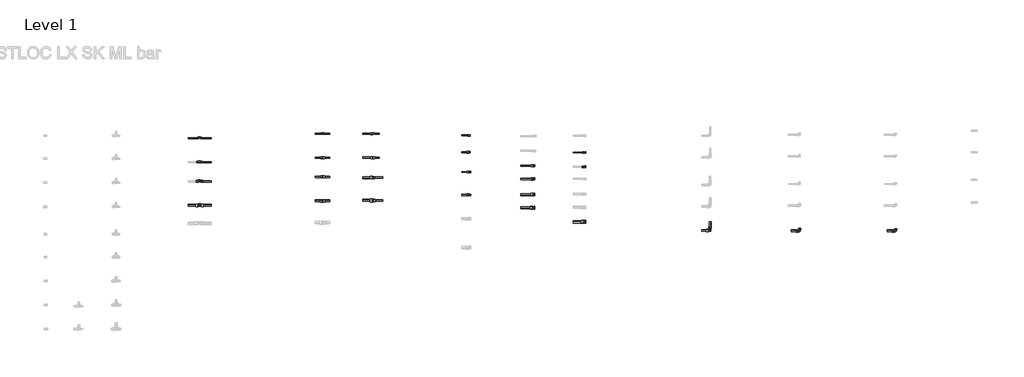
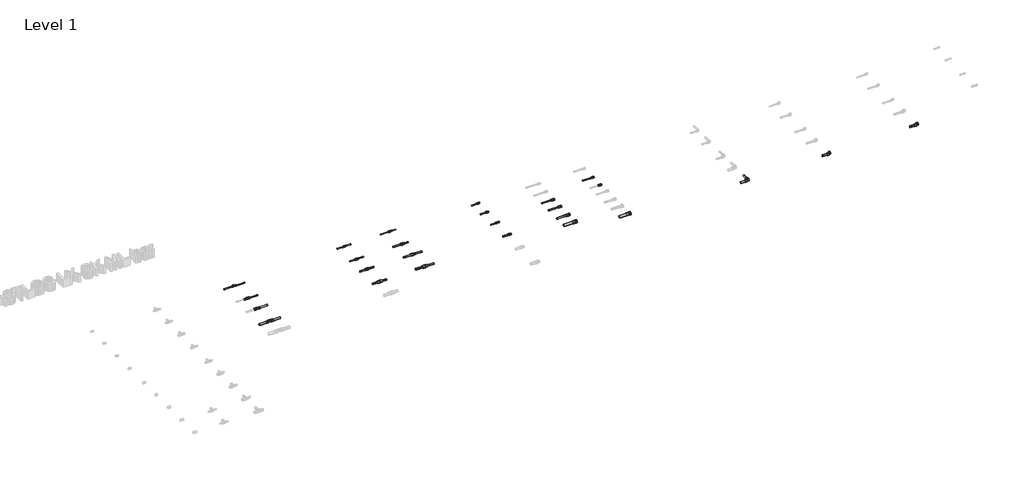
# One storey, part 14 of 78: 36 pipe segments, 26 pipe fittings.
"""IFC4 building model written with IfcOpenShell, lengths in millimetres."""

from ifc_helpers import new_model, si_unit, point, frame, frame_2d, origin, place, context, project, spatial, circle_curve, trimmed, segment, composite_curve, outline, extrude, transform, mapped, element, save
from components import pipe_fitting_e93012df, pipe_fitting_027be69e, pipe_fitting_14a26f43, pipe_fitting_91740978, pipe_fitting_d92d4423, pipe_fitting_47d0521d, pipe_fitting_29c4d4eb, pipe_fitting_1d22680d, pipe_fitting_5e3c5755, pipe_fitting_f5731c1c, pipe_fitting_0b32e4b0, pipe_fitting_0562571e, pipe_fitting_d14a7251, pipe_fitting_38e91122, pipe_fitting_ee510fd7, pipe_fitting_a999c26e, pipe_fitting_a340ff43, pipe_fitting_d52baa13, pipe_fitting_80b7091b, pipe_fitting_edf19c19, pipe_fitting_68aa3d98, pipe_fitting_c3764643, pipe_fitting_f8d70d0e, pipe_fitting_18fcccac, pipe_fitting_1e296f3b, pipe_fitting_52b87474

model = new_model("IFC4")

# Units and contexts
model_context = context("Model", 3, world=origin())
ifc_project = project(units=[si_unit("LENGTHUNIT", "METRE", prefix="MILLI")], contexts=[model_context])

# Site, building, storey
site = spatial("IfcSite", under=ifc_project)
building = spatial("IfcBuilding", under=site)
storey = spatial("IfcBuildingStorey", under=building, Name="Level 1", Elevation=0.0)

# Pipe fittings
placement = place(None, origin())
pipe_fitting_shape = pipe_fitting_e93012df(model_context)
element("IfcPipeFitting", 1, ObjectType="FASTLOC_Adapter_LX, with external thread : FSL A C external SK", at=placement, inside=storey, context=model_context, shape_type="MappedRepresentation", body=[
    mapped(pipe_fitting_shape, transform((7526.3785179, -18735.7057457, 0.0), x_axis=(1.0, 0.0, 0.0), y_axis=(0.0, 1.0, 0.0), z_axis=(0.0, 0.0, 1.0))),
])
pipe_fitting_2_shape = pipe_fitting_027be69e(model_context)
element("IfcPipeFitting", 2, ObjectType="FASTLOC_Coupling equal LX : FSL C LX SK", at=placement, inside=storey, context=model_context, shape_type="MappedRepresentation", body=[
    mapped(pipe_fitting_2_shape, transform((5088.3790161, -18705.8821283, 0.0), x_axis=(1.0, 0.0, 0.0), y_axis=(0.0, 1.0, 0.0), z_axis=(0.0, 0.0, 1.0))),
])
pipe_fitting_3_shape = pipe_fitting_14a26f43(model_context)
element("IfcPipeFitting", 3, ObjectType="FASTLOC_Coupling reduced LX : FSL C LX SK", at=placement, inside=storey, context=model_context, shape_type="MappedRepresentation", body=[
    mapped(pipe_fitting_3_shape, transform((5926.6928556, -19818.3821283, 0.0), x_axis=(1.0, 0.0, 0.0), y_axis=(0.0, 1.0, 0.0), z_axis=(0.0, 0.0, 1.0))),
])
pipe_fitting_4_shape = pipe_fitting_91740978(model_context)
element("IfcPipeFitting", 4, ObjectType="FASTLOC_T-piece internal thread LX : FSL T thread LX SK", at=placement, inside=storey, context=model_context, shape_type="MappedRepresentation", body=[
    mapped(pipe_fitting_4_shape, transform((3036.609585, -19899.8272875, 0.0), x_axis=(1.0, 0.0, 0.0), y_axis=(0.0, 1.0, 0.0), z_axis=(0.0, 0.0, 1.0))),
])
pipe_fitting_5_shape = pipe_fitting_d92d4423(model_context)
element("IfcPipeFitting", 5, ObjectType="FASTLOC_T-piece internal thread LX : FSL T thread LX SK", at=placement, inside=storey, context=model_context, shape_type="MappedRepresentation", body=[
    mapped(pipe_fitting_5_shape, transform((3036.609585, -18779.8272875, 0.0), x_axis=(1.0, 0.0, 0.0), y_axis=(0.0, 1.0, 0.0), z_axis=(0.0, 0.0, 1.0))),
])
pipe_fitting_6_shape = pipe_fitting_47d0521d(model_context)
element("IfcPipeFitting", 6, ObjectType="FASTLOC_T-piece internal thread LX : FSL T thread LX SK", at=placement, inside=storey, context=model_context, shape_type="MappedRepresentation", body=[
    mapped(pipe_fitting_6_shape, transform((3036.609585, -19179.8272875, 0.0), x_axis=(1.0, 0.0, 0.0), y_axis=(0.0, 1.0, 0.0), z_axis=(0.0, 0.0, 1.0))),
])
pipe_fitting_7_shape = pipe_fitting_29c4d4eb(model_context)
element("IfcPipeFitting", 7, ObjectType="FASTLOC_T-piece internal thread LX : FSL T thread LX SK", at=placement, inside=storey, context=model_context, shape_type="MappedRepresentation", body=[
    mapped(pipe_fitting_7_shape, transform((3036.609585, -19499.8272875, 0.0), x_axis=(1.0, 0.0, 0.0), y_axis=(0.0, 1.0, 0.0), z_axis=(0.0, 0.0, 1.0))),
])
pipe_fitting_8_shape = pipe_fitting_1d22680d(model_context)
element("IfcPipeFitting", 8, ObjectType="FASTLOC_Coupling equal LX : FSL C LX SK", at=placement, inside=storey, context=model_context, shape_type="MappedRepresentation", body=[
    mapped(pipe_fitting_8_shape, transform((5088.3790161, -19105.8821283, 0.0), x_axis=(1.0, 0.0, 0.0), y_axis=(0.0, 1.0, 0.0), z_axis=(0.0, 0.0, 1.0))),
])
pipe_fitting_9_shape = pipe_fitting_5e3c5755(model_context)
element("IfcPipeFitting", 9, ObjectType="FASTLOC_Coupling equal LX : FSL C LX SK", at=placement, inside=storey, context=model_context, shape_type="MappedRepresentation", body=[
    mapped(pipe_fitting_9_shape, transform((5088.3790161, -19425.8821283, 0.0), x_axis=(1.0, 0.0, 0.0), y_axis=(0.0, 1.0, 0.0), z_axis=(0.0, 0.0, 1.0))),
])
pipe_fitting_10_shape = pipe_fitting_f5731c1c(model_context)
element("IfcPipeFitting", 10, ObjectType="FASTLOC_Coupling equal LX : FSL C LX SK", at=placement, inside=storey, context=model_context, shape_type="MappedRepresentation", body=[
    mapped(pipe_fitting_10_shape, transform((5088.3790161, -19825.8821283, 0.0), x_axis=(1.0, 0.0, 0.0), y_axis=(0.0, 1.0, 0.0), z_axis=(0.0, 0.0, 1.0))),
])
pipe_fitting_11_shape = pipe_fitting_0b32e4b0(model_context)
element("IfcPipeFitting", 11, ObjectType="FASTLOC_Coupling reduced LX : FSL C LX SK", at=placement, inside=storey, context=model_context, shape_type="MappedRepresentation", body=[
    mapped(pipe_fitting_11_shape, transform((5926.6928556, -18705.8821283, 0.0), x_axis=(1.0, 0.0, 0.0), y_axis=(0.0, 1.0, 0.0), z_axis=(0.0, 0.0, 1.0))),
])
pipe_fitting_12_shape = pipe_fitting_0562571e(model_context)
element("IfcPipeFitting", 12, ObjectType="FASTLOC_Coupling reduced LX : FSL C LX SK", at=placement, inside=storey, context=model_context, shape_type="MappedRepresentation", body=[
    mapped(pipe_fitting_12_shape, transform((5926.6928556, -19105.8821283, 0.0), x_axis=(1.0, 0.0, 0.0), y_axis=(0.0, 1.0, 0.0), z_axis=(0.0, 0.0, 1.0))),
])
pipe_fitting_13_shape = pipe_fitting_d14a7251(model_context)
element("IfcPipeFitting", 13, ObjectType="FASTLOC_Coupling reduced LX : FSL C LX SK", at=placement, inside=storey, context=model_context, shape_type="MappedRepresentation", body=[
    mapped(pipe_fitting_13_shape, transform((5926.6928556, -19438.3821283, 0.0), x_axis=(1.0, 0.0, 0.0), y_axis=(0.0, 1.0, 0.0), z_axis=(0.0, 0.0, 1.0))),
])
pipe_fitting_14_shape = pipe_fitting_38e91122(model_context)
element("IfcPipeFitting", 14, ObjectType="FASTLOC_Adapter_LX, with external thread : FSL A C external SK", at=placement, inside=storey, context=model_context, shape_type="MappedRepresentation", body=[
    mapped(pipe_fitting_14_shape, transform((7526.8953131, -19014.2068389, 0.0), x_axis=(1.0, 0.0, 0.0), y_axis=(0.0, 1.0, 0.0), z_axis=(0.0, 0.0, 1.0))),
])
pipe_fitting_15_shape = pipe_fitting_ee510fd7(model_context)
element("IfcPipeFitting", 15, ObjectType="FASTLOC_Adapter_LX, with external thread : FSL A C external SK", at=placement, inside=storey, context=model_context, shape_type="MappedRepresentation", body=[
    mapped(pipe_fitting_15_shape, transform((7526.8953131, -19344.2068389, 0.0), x_axis=(1.0, 0.0, 0.0), y_axis=(0.0, 1.0, 0.0), z_axis=(0.0, 0.0, 1.0))),
])
pipe_fitting_16_shape = pipe_fitting_a999c26e(model_context)
element("IfcPipeFitting", 16, ObjectType="FASTLOC_Adapter_LX, with external thread : FSL A C external SK", at=placement, inside=storey, context=model_context, shape_type="MappedRepresentation", body=[
    mapped(pipe_fitting_16_shape, transform((7526.8953131, -19724.2068389, 0.0), x_axis=(1.0, 0.0, 0.0), y_axis=(0.0, 1.0, 0.0), z_axis=(0.0, 0.0, 1.0))),
])
pipe_fitting_17_shape = pipe_fitting_a340ff43(model_context)
element("IfcPipeFitting", 17, ObjectType="FASTLOC_Adapter with union nut LX : FSL A union nut SK", at=placement, inside=storey, context=model_context, shape_type="MappedRepresentation", body=[
    mapped(pipe_fitting_17_shape, transform((9445.0071797, -19019.8414073, 0.0), x_axis=(1.0, 0.0, 0.0), y_axis=(0.0, 1.0, 0.0), z_axis=(0.0, 0.0, 1.0))),
])
pipe_fitting_18_shape = pipe_fitting_d52baa13(model_context)
element("IfcPipeFitting", 18, ObjectType="FASTLOC_Adapter with union nut LX : FSL A union nut SK", at=placement, inside=storey, context=model_context, shape_type="MappedRepresentation", body=[
    mapped(pipe_fitting_18_shape, transform((9445.0071797, -19259.8414073, 0.0), x_axis=(1.0, 0.0, 0.0), y_axis=(0.0, 1.0, 0.0), z_axis=(0.0, 0.0, 1.0))),
])
pipe_fitting_19_shape = pipe_fitting_80b7091b(model_context)
element("IfcPipeFitting", 19, ObjectType="FASTLOC_Adapter with union nut LX : FSL A union nut SK", at=placement, inside=storey, context=model_context, shape_type="MappedRepresentation", body=[
    mapped(pipe_fitting_19_shape, transform((9445.0071797, -20174.8414073, 0.0), x_axis=(1.0, 0.0, 0.0), y_axis=(0.0, 1.0, 0.0), z_axis=(0.0, 0.0, 1.0))),
])
pipe_fitting_20_shape = pipe_fitting_edf19c19(model_context)
element("IfcPipeFitting", 20, ObjectType="FASTLOC_Corner LX : FSL C LX SK", at=placement, inside=storey, context=model_context, shape_type="MappedRepresentation", body=[
    mapped(pipe_fitting_20_shape, transform((11545.4707441, -20318.8136389, 0.0), x_axis=(1.0, 0.0, 0.0), y_axis=(0.0, 1.0, 0.0), z_axis=(0.0, 0.0, 1.0))),
])
pipe_fitting_21_shape = pipe_fitting_68aa3d98(model_context)
element("IfcPipeFitting", 21, ObjectType="FASTLOC_Elbow with male thread LX : FSL A internal SK", at=placement, inside=storey, context=model_context, shape_type="MappedRepresentation", body=[
    mapped(pipe_fitting_21_shape, transform((13036.9744513, -20324.4914884, 0.0), x_axis=(1.0, 0.0, 0.0), y_axis=(0.0, 1.0, 0.0), z_axis=(0.0, 0.0, 1.0))),
])
pipe_fitting_22_shape = pipe_fitting_c3764643(model_context)
element("IfcPipeFitting", 22, ObjectType="FASTLOC_Elbow with female thread LX : FSL A internal SK", at=placement, inside=storey, context=model_context, shape_type="MappedRepresentation", body=[
    mapped(pipe_fitting_22_shape, transform((14636.9744513, -20324.4914884, 0.0), x_axis=(1.0, 0.0, 0.0), y_axis=(0.0, 1.0, 0.0), z_axis=(0.0, 0.0, 1.0))),
])
pipe_fitting_23_shape = pipe_fitting_f8d70d0e(model_context)
element("IfcPipeFitting", 23, ObjectType="FASTLOC_Adapter_LX, with internal thread : FSL A internal SK", at=placement, inside=storey, context=model_context, shape_type="MappedRepresentation", body=[
    mapped(pipe_fitting_23_shape, transform((8602.7717432, -19240.2569989, 0.0), x_axis=(1.0, 0.0, 0.0), y_axis=(0.0, 1.0, 0.0), z_axis=(0.0, 0.0, 1.0))),
])
pipe_fitting_24_shape = pipe_fitting_18fcccac(model_context)
element("IfcPipeFitting", 24, ObjectType="FASTLOC_Adapter_LX, with internal thread : FSL A internal SK", at=placement, inside=storey, context=model_context, shape_type="MappedRepresentation", body=[
    mapped(pipe_fitting_24_shape, transform((8602.7717432, -19460.2569989, 0.0), x_axis=(1.0, 0.0, 0.0), y_axis=(0.0, 1.0, 0.0), z_axis=(0.0, 0.0, 1.0))),
])
pipe_fitting_25_shape = pipe_fitting_1e296f3b(model_context)
element("IfcPipeFitting", 25, ObjectType="FASTLOC_Adapter_LX, with internal thread : FSL A internal SK", at=placement, inside=storey, context=model_context, shape_type="MappedRepresentation", body=[
    mapped(pipe_fitting_25_shape, transform((8602.7717432, -19720.2569989, 0.0), x_axis=(1.0, 0.0, 0.0), y_axis=(0.0, 1.0, 0.0), z_axis=(0.0, 0.0, 1.0))),
])
pipe_fitting_26_shape = pipe_fitting_52b87474(model_context)
element("IfcPipeFitting", 26, ObjectType="FASTLOC_Adapter_LX, with internal thread : FSL A internal SK", at=placement, inside=storey, context=model_context, shape_type="MappedRepresentation", body=[
    mapped(pipe_fitting_26_shape, transform((8602.7717432, -19940.2569989, 0.0), x_axis=(1.0, 0.0, 0.0), y_axis=(0.0, 1.0, 0.0), z_axis=(0.0, 0.0, 1.0))),
])

# Pipe segments
element("IfcPipeSegment", 27, ObjectType="FASTLOC LX ML SK bar", at=placement, inside=storey, context=model_context, shape_type="SweptSolid", body=[
    extrude(outline(composite_curve([segment(trimmed(circle_curve(frame_2d((-18779.8272875, 0.0)), 8.0), [point((-18787.8272875, 0.0))], [point((-18779.8272875, 8.0))], False, "CARTESIAN"), True, "CONTINUOUS"), segment(trimmed(circle_curve(frame_2d((-18779.8272875, 0.0)), 8.0), [point((-18779.8272875, 8.0))], [point((-18771.8272875, 0.0))], False, "CARTESIAN"), True, "CONTINUOUS"), segment(trimmed(circle_curve(frame_2d((-18779.8272875, 0.0)), 8.0), [point((-18771.8272875, 0.0))], [point((-18779.8272875, -8.0))], False, "CARTESIAN"), True, "CONTINUOUS"), segment(trimmed(circle_curve(frame_2d((-18779.8272875, 0.0)), 8.0), [point((-18779.8272875, -8.0))], [point((-18787.8272875, 0.0))], False, "CARTESIAN"), True, "CONTINUOUS")], self_intersect=False)), frame((3058.609585, 0.0, 0.0), z_axis=(1.0, 0.0, 0.0), x_axis=(0.0, 1.0, 0.0)), (0.0, 0.0, 1.0), 170.0),
])
element("IfcPipeSegment", 28, ObjectType="FASTLOC LX ML SK bar", at=placement, inside=storey, context=model_context, shape_type="SweptSolid", body=[
    extrude(outline(composite_curve([segment(trimmed(circle_curve(frame_2d((-18779.8272875, 0.0)), 8.0), [point((-18771.8272875, 0.0))], [point((-18779.8272875, -8.0))], False, "CARTESIAN"), True, "CONTINUOUS"), segment(trimmed(circle_curve(frame_2d((-18779.8272875, 0.0)), 8.0), [point((-18779.8272875, -8.0))], [point((-18787.8272875, 0.0))], False, "CARTESIAN"), True, "CONTINUOUS"), segment(trimmed(circle_curve(frame_2d((-18779.8272875, 0.0)), 8.0), [point((-18787.8272875, 0.0))], [point((-18779.8272875, 8.0))], False, "CARTESIAN"), True, "CONTINUOUS"), segment(trimmed(circle_curve(frame_2d((-18779.8272875, 0.0)), 8.0), [point((-18779.8272875, 8.0))], [point((-18771.8272875, 0.0))], False, "CARTESIAN"), True, "CONTINUOUS")], self_intersect=False)), frame((2849.609585, 0.0, 0.0), z_axis=(1.0, 0.0, 0.0), x_axis=(0.0, 1.0, 0.0)), (0.0, 0.0, 1.0), 165.0),
])
element("IfcPipeSegment", 29, ObjectType="FASTLOC LX ML SK bar", at=placement, inside=storey, context=model_context, shape_type="SweptSolid", body=[
    extrude(outline(composite_curve([segment(trimmed(circle_curve(frame_2d((-19179.8272875, 0.0)), 8.0), [point((-19187.8272875, 0.0))], [point((-19179.8272875, 8.0))], False, "CARTESIAN"), True, "CONTINUOUS"), segment(trimmed(circle_curve(frame_2d((-19179.8272875, 0.0)), 8.0), [point((-19179.8272875, 8.0))], [point((-19171.8272875, 0.0))], False, "CARTESIAN"), True, "CONTINUOUS"), segment(trimmed(circle_curve(frame_2d((-19179.8272875, 0.0)), 8.0), [point((-19171.8272875, 0.0))], [point((-19179.8272875, -8.0))], False, "CARTESIAN"), True, "CONTINUOUS"), segment(trimmed(circle_curve(frame_2d((-19179.8272875, 0.0)), 8.0), [point((-19179.8272875, -8.0))], [point((-19187.8272875, 0.0))], False, "CARTESIAN"), True, "CONTINUOUS")], self_intersect=False)), frame((3059.109585, 0.0, 0.0), z_axis=(1.0, 0.0, 0.0), x_axis=(0.0, 1.0, 0.0)), (0.0, 0.0, 1.0), 169.5),
])
element("IfcPipeSegment", 30, ObjectType="FASTLOC LX ML SK bar", at=placement, inside=storey, context=model_context, shape_type="SweptSolid", body=[
    extrude(outline(composite_curve([segment(trimmed(circle_curve(frame_2d((-19499.8272875, 0.0)), 12.5), [point((-19512.3272875, 0.0))], [point((-19499.8272875, 12.5))], False, "CARTESIAN"), True, "CONTINUOUS"), segment(trimmed(circle_curve(frame_2d((-19499.8272875, 0.0)), 12.5), [point((-19499.8272875, 12.5))], [point((-19487.3272875, 0.0))], False, "CARTESIAN"), True, "CONTINUOUS"), segment(trimmed(circle_curve(frame_2d((-19499.8272875, 0.0)), 12.5), [point((-19487.3272875, 0.0))], [point((-19499.8272875, -12.5))], False, "CARTESIAN"), True, "CONTINUOUS"), segment(trimmed(circle_curve(frame_2d((-19499.8272875, 0.0)), 12.5), [point((-19499.8272875, -12.5))], [point((-19512.3272875, 0.0))], False, "CARTESIAN"), True, "CONTINUOUS")], self_intersect=False)), frame((3063.309585, 0.0, 0.0), z_axis=(1.0, 0.0, 0.0), x_axis=(0.0, 1.0, 0.0)), (0.0, 0.0, 1.0), 165.3),
])
element("IfcPipeSegment", 31, ObjectType="FASTLOC LX ML SK bar", at=placement, inside=storey, context=model_context, shape_type="SweptSolid", body=[
    extrude(outline(composite_curve([segment(trimmed(circle_curve(frame_2d((-19899.8272875, 0.0)), 16.0), [point((-19915.8272875, 0.0))], [point((-19899.8272875, 16.0))], False, "CARTESIAN"), True, "CONTINUOUS"), segment(trimmed(circle_curve(frame_2d((-19899.8272875, 0.0)), 16.0), [point((-19899.8272875, 16.0))], [point((-19883.8272875, 0.0))], False, "CARTESIAN"), True, "CONTINUOUS"), segment(trimmed(circle_curve(frame_2d((-19899.8272875, 0.0)), 16.0), [point((-19883.8272875, 0.0))], [point((-19899.8272875, -16.0))], False, "CARTESIAN"), True, "CONTINUOUS"), segment(trimmed(circle_curve(frame_2d((-19899.8272875, 0.0)), 16.0), [point((-19899.8272875, -16.0))], [point((-19915.8272875, 0.0))], False, "CARTESIAN"), True, "CONTINUOUS")], self_intersect=False)), frame((3069.609585, 0.0, 0.0), z_axis=(1.0, 0.0, 0.0), x_axis=(0.0, 1.0, 0.0)), (0.0, 0.0, 1.0), 159.0),
])
element("IfcPipeSegment", 32, ObjectType="FASTLOC LX ML SK bar", at=placement, inside=storey, context=model_context, shape_type="SweptSolid", body=[
    extrude(outline(composite_curve([segment(trimmed(circle_curve(frame_2d((-19899.8272875, 0.0)), 16.0), [point((-19883.8272875, 0.0))], [point((-19899.8272875, -16.0))], False, "CARTESIAN"), True, "CONTINUOUS"), segment(trimmed(circle_curve(frame_2d((-19899.8272875, 0.0)), 16.0), [point((-19899.8272875, -16.0))], [point((-19915.8272875, 0.0))], False, "CARTESIAN"), True, "CONTINUOUS"), segment(trimmed(circle_curve(frame_2d((-19899.8272875, 0.0)), 16.0), [point((-19915.8272875, 0.0))], [point((-19899.8272875, 16.0))], False, "CARTESIAN"), True, "CONTINUOUS"), segment(trimmed(circle_curve(frame_2d((-19899.8272875, 0.0)), 16.0), [point((-19899.8272875, 16.0))], [point((-19883.8272875, 0.0))], False, "CARTESIAN"), True, "CONTINUOUS")], self_intersect=False)), frame((2849.609585, 0.0, 0.0), z_axis=(1.0, 0.0, 0.0), x_axis=(0.0, 1.0, 0.0)), (0.0, 0.0, 1.0), 154.0),
])
element("IfcPipeSegment", 33, ObjectType="FASTLOC LX ML SK bar", at=placement, inside=storey, context=model_context, shape_type="SweptSolid", body=[
    extrude(outline(composite_curve([segment(trimmed(circle_curve(frame_2d((-18705.8821283, 0.0)), 8.0), [point((-18713.8821283, 0.0))], [point((-18705.8821283, 8.0))], False, "CARTESIAN"), True, "CONTINUOUS"), segment(trimmed(circle_curve(frame_2d((-18705.8821283, 0.0)), 8.0), [point((-18705.8821283, 8.0))], [point((-18697.8821283, 0.0))], False, "CARTESIAN"), True, "CONTINUOUS"), segment(trimmed(circle_curve(frame_2d((-18705.8821283, 0.0)), 8.0), [point((-18697.8821283, 0.0))], [point((-18705.8821283, -8.0))], False, "CARTESIAN"), True, "CONTINUOUS"), segment(trimmed(circle_curve(frame_2d((-18705.8821283, 0.0)), 8.0), [point((-18705.8821283, -8.0))], [point((-18713.8821283, 0.0))], False, "CARTESIAN"), True, "CONTINUOUS")], self_intersect=False)), frame((5095.5790161, 0.0, 0.0), z_axis=(1.0, 0.0, 0.0), x_axis=(0.0, 1.0, 0.0)), (0.0, 0.0, 1.0), 115.0),
])
element("IfcPipeSegment", 34, ObjectType="FASTLOC LX ML SK bar", at=placement, inside=storey, context=model_context, shape_type="SweptSolid", body=[
    extrude(outline(composite_curve([segment(trimmed(circle_curve(frame_2d((-18705.8821283, 0.0)), 8.0), [point((-18697.8821283, 0.0))], [point((-18705.8821283, -8.0))], False, "CARTESIAN"), True, "CONTINUOUS"), segment(trimmed(circle_curve(frame_2d((-18705.8821283, 0.0)), 8.0), [point((-18705.8821283, -8.0))], [point((-18713.8821283, 0.0))], False, "CARTESIAN"), True, "CONTINUOUS"), segment(trimmed(circle_curve(frame_2d((-18705.8821283, 0.0)), 8.0), [point((-18713.8821283, 0.0))], [point((-18705.8821283, 8.0))], False, "CARTESIAN"), True, "CONTINUOUS"), segment(trimmed(circle_curve(frame_2d((-18705.8821283, 0.0)), 8.0), [point((-18705.8821283, 8.0))], [point((-18697.8821283, 0.0))], False, "CARTESIAN"), True, "CONTINUOUS")], self_intersect=False)), frame((4961.1790161, 0.0, 0.0), z_axis=(1.0, 0.0, 0.0), x_axis=(0.0, 1.0, 0.0)), (0.0, 0.0, 1.0), 120.0),
])
element("IfcPipeSegment", 35, ObjectType="FASTLOC LX ML SK bar", at=placement, inside=storey, context=model_context, shape_type="SweptSolid", body=[
    extrude(outline(composite_curve([segment(trimmed(circle_curve(frame_2d((-19105.8821283, 0.0)), 8.0), [point((-19113.8821283, 0.0))], [point((-19105.8821283, 8.0))], False, "CARTESIAN"), True, "CONTINUOUS"), segment(trimmed(circle_curve(frame_2d((-19105.8821283, 0.0)), 8.0), [point((-19105.8821283, 8.0))], [point((-19097.8821283, 0.0))], False, "CARTESIAN"), True, "CONTINUOUS"), segment(trimmed(circle_curve(frame_2d((-19105.8821283, 0.0)), 8.0), [point((-19097.8821283, 0.0))], [point((-19105.8821283, -8.0))], False, "CARTESIAN"), True, "CONTINUOUS"), segment(trimmed(circle_curve(frame_2d((-19105.8821283, 0.0)), 8.0), [point((-19105.8821283, -8.0))], [point((-19113.8821283, 0.0))], False, "CARTESIAN"), True, "CONTINUOUS")], self_intersect=False)), frame((5095.7790161, 0.0, 0.0), z_axis=(1.0, 0.0, 0.0), x_axis=(0.0, 1.0, 0.0)), (0.0, 0.0, 1.0), 114.8),
])
element("IfcPipeSegment", 36, ObjectType="FASTLOC LX ML SK bar", at=placement, inside=storey, context=model_context, shape_type="SweptSolid", body=[
    extrude(outline(composite_curve([segment(trimmed(circle_curve(frame_2d((-19105.8821283, 0.0)), 8.0), [point((-19097.8821283, 0.0))], [point((-19105.8821283, -8.0))], False, "CARTESIAN"), True, "CONTINUOUS"), segment(trimmed(circle_curve(frame_2d((-19105.8821283, 0.0)), 8.0), [point((-19105.8821283, -8.0))], [point((-19113.8821283, 0.0))], False, "CARTESIAN"), True, "CONTINUOUS"), segment(trimmed(circle_curve(frame_2d((-19105.8821283, 0.0)), 8.0), [point((-19113.8821283, 0.0))], [point((-19105.8821283, 8.0))], False, "CARTESIAN"), True, "CONTINUOUS"), segment(trimmed(circle_curve(frame_2d((-19105.8821283, 0.0)), 8.0), [point((-19105.8821283, 8.0))], [point((-19097.8821283, 0.0))], False, "CARTESIAN"), True, "CONTINUOUS")], self_intersect=False)), frame((4961.1790161, 0.0, 0.0), z_axis=(1.0, 0.0, 0.0), x_axis=(0.0, 1.0, 0.0)), (0.0, 0.0, 1.0), 119.8),
])
element("IfcPipeSegment", 37, ObjectType="FASTLOC LX ML SK bar", at=placement, inside=storey, context=model_context, shape_type="SweptSolid", body=[
    extrude(outline(composite_curve([segment(trimmed(circle_curve(frame_2d((-19425.8821283, 0.0)), 12.5), [point((-19438.3821283, 0.0))], [point((-19425.8821283, 12.5))], False, "CARTESIAN"), True, "CONTINUOUS"), segment(trimmed(circle_curve(frame_2d((-19425.8821283, 0.0)), 12.5), [point((-19425.8821283, 12.5))], [point((-19413.3821283, 0.0))], False, "CARTESIAN"), True, "CONTINUOUS"), segment(trimmed(circle_curve(frame_2d((-19425.8821283, 0.0)), 12.5), [point((-19413.3821283, 0.0))], [point((-19425.8821283, -12.5))], False, "CARTESIAN"), True, "CONTINUOUS"), segment(trimmed(circle_curve(frame_2d((-19425.8821283, 0.0)), 12.5), [point((-19425.8821283, -12.5))], [point((-19438.3821283, 0.0))], False, "CARTESIAN"), True, "CONTINUOUS")], self_intersect=False)), frame((5096.3790161, 0.0, 0.0), z_axis=(1.0, 0.0, 0.0), x_axis=(0.0, 1.0, 0.0)), (0.0, 0.0, 1.0), 114.2),
])
element("IfcPipeSegment", 38, ObjectType="FASTLOC LX ML SK bar", at=placement, inside=storey, context=model_context, shape_type="SweptSolid", body=[
    extrude(outline(composite_curve([segment(trimmed(circle_curve(frame_2d((-19425.8821283, 0.0)), 12.5), [point((-19413.3821283, 0.0))], [point((-19425.8821283, -12.5))], False, "CARTESIAN"), True, "CONTINUOUS"), segment(trimmed(circle_curve(frame_2d((-19425.8821283, 0.0)), 12.5), [point((-19425.8821283, -12.5))], [point((-19438.3821283, 0.0))], False, "CARTESIAN"), True, "CONTINUOUS"), segment(trimmed(circle_curve(frame_2d((-19425.8821283, 0.0)), 12.5), [point((-19438.3821283, 0.0))], [point((-19425.8821283, 12.5))], False, "CARTESIAN"), True, "CONTINUOUS"), segment(trimmed(circle_curve(frame_2d((-19425.8821283, 0.0)), 12.5), [point((-19425.8821283, 12.5))], [point((-19413.3821283, 0.0))], False, "CARTESIAN"), True, "CONTINUOUS")], self_intersect=False)), frame((4961.1790161, 0.0, 0.0), z_axis=(1.0, 0.0, 0.0), x_axis=(0.0, 1.0, 0.0)), (0.0, 0.0, 1.0), 119.2),
])
element("IfcPipeSegment", 39, ObjectType="FASTLOC LX ML SK bar", at=placement, inside=storey, context=model_context, shape_type="SweptSolid", body=[
    extrude(outline(composite_curve([segment(trimmed(circle_curve(frame_2d((-19825.8821283, 0.0)), 16.0), [point((-19841.8821283, 0.0))], [point((-19825.8821283, 16.0))], False, "CARTESIAN"), True, "CONTINUOUS"), segment(trimmed(circle_curve(frame_2d((-19825.8821283, 0.0)), 16.0), [point((-19825.8821283, 16.0))], [point((-19809.8821283, 0.0))], False, "CARTESIAN"), True, "CONTINUOUS"), segment(trimmed(circle_curve(frame_2d((-19825.8821283, 0.0)), 16.0), [point((-19809.8821283, 0.0))], [point((-19825.8821283, -16.0))], False, "CARTESIAN"), True, "CONTINUOUS"), segment(trimmed(circle_curve(frame_2d((-19825.8821283, 0.0)), 16.0), [point((-19825.8821283, -16.0))], [point((-19841.8821283, 0.0))], False, "CARTESIAN"), True, "CONTINUOUS")], self_intersect=False)), frame((5098.3790161, 0.0, 0.0), z_axis=(1.0, 0.0, 0.0), x_axis=(0.0, 1.0, 0.0)), (0.0, 0.0, 1.0), 112.2),
])
element("IfcPipeSegment", 40, ObjectType="FASTLOC LX ML SK bar", at=placement, inside=storey, context=model_context, shape_type="SweptSolid", body=[
    extrude(outline(composite_curve([segment(trimmed(circle_curve(frame_2d((-19825.8821283, 0.0)), 16.0), [point((-19809.8821283, 0.0))], [point((-19825.8821283, -16.0))], False, "CARTESIAN"), True, "CONTINUOUS"), segment(trimmed(circle_curve(frame_2d((-19825.8821283, 0.0)), 16.0), [point((-19825.8821283, -16.0))], [point((-19841.8821283, 0.0))], False, "CARTESIAN"), True, "CONTINUOUS"), segment(trimmed(circle_curve(frame_2d((-19825.8821283, 0.0)), 16.0), [point((-19841.8821283, 0.0))], [point((-19825.8821283, 16.0))], False, "CARTESIAN"), True, "CONTINUOUS"), segment(trimmed(circle_curve(frame_2d((-19825.8821283, 0.0)), 16.0), [point((-19825.8821283, 16.0))], [point((-19809.8821283, 0.0))], False, "CARTESIAN"), True, "CONTINUOUS")], self_intersect=False)), frame((4961.1790161, 0.0, 0.0), z_axis=(1.0, 0.0, 0.0), x_axis=(0.0, 1.0, 0.0)), (0.0, 0.0, 1.0), 117.2),
])
element("IfcPipeSegment", 41, ObjectType="FASTLOC LX ML SK bar", at=placement, inside=storey, context=model_context, shape_type="SweptSolid", body=[
    extrude(outline(composite_curve([segment(trimmed(circle_curve(frame_2d((-18705.8821283, 0.0)), 8.0), [point((-18713.8821283, 0.0))], [point((-18705.8821283, 8.0))], False, "CARTESIAN"), True, "CONTINUOUS"), segment(trimmed(circle_curve(frame_2d((-18705.8821283, 0.0)), 8.0), [point((-18705.8821283, 8.0))], [point((-18697.8821283, 0.0))], False, "CARTESIAN"), True, "CONTINUOUS"), segment(trimmed(circle_curve(frame_2d((-18705.8821283, 0.0)), 8.0), [point((-18697.8821283, 0.0))], [point((-18705.8821283, -8.0))], False, "CARTESIAN"), True, "CONTINUOUS"), segment(trimmed(circle_curve(frame_2d((-18705.8821283, 0.0)), 8.0), [point((-18705.8821283, -8.0))], [point((-18713.8821283, 0.0))], False, "CARTESIAN"), True, "CONTINUOUS")], self_intersect=False)), frame((5932.9928556, 0.0, 0.0), z_axis=(1.0, 0.0, 0.0), x_axis=(0.0, 1.0, 0.0)), (0.0, 0.0, 1.0), 95.0),
])
element("IfcPipeSegment", 42, ObjectType="FASTLOC LX ML SK coil", at=placement, inside=storey, context=model_context, shape_type="SweptSolid", body=[
    extrude(outline(composite_curve([segment(trimmed(circle_curve(frame_2d((-18705.8821283, 0.0)), 8.0), [point((-18697.8821283, 0.0))], [point((-18705.8821283, -8.0))], False, "CARTESIAN"), True, "CONTINUOUS"), segment(trimmed(circle_curve(frame_2d((-18705.8821283, 0.0)), 8.0), [point((-18705.8821283, -8.0))], [point((-18713.8821283, 0.0))], False, "CARTESIAN"), True, "CONTINUOUS"), segment(trimmed(circle_curve(frame_2d((-18705.8821283, 0.0)), 8.0), [point((-18713.8821283, 0.0))], [point((-18705.8821283, 8.0))], False, "CARTESIAN"), True, "CONTINUOUS"), segment(trimmed(circle_curve(frame_2d((-18705.8821283, 0.0)), 8.0), [point((-18705.8821283, 8.0))], [point((-18697.8821283, 0.0))], False, "CARTESIAN"), True, "CONTINUOUS")], self_intersect=False)), frame((5752.9928556, 0.0, 0.0), z_axis=(1.0, 0.0, 0.0), x_axis=(0.0, 1.0, 0.0)), (0.0, 0.0, 1.0), 165.0),
])
element("IfcPipeSegment", 43, ObjectType="FASTLOC LX ML SK bar", at=placement, inside=storey, context=model_context, shape_type="SweptSolid", body=[
    extrude(outline(composite_curve([segment(trimmed(circle_curve(frame_2d((-19105.8821283, 0.0)), 12.5), [point((-19093.3821283, 0.0))], [point((-19105.8821283, -12.5))], False, "CARTESIAN"), True, "CONTINUOUS"), segment(trimmed(circle_curve(frame_2d((-19105.8821283, 0.0)), 12.5), [point((-19105.8821283, -12.5))], [point((-19118.3821283, 0.0))], False, "CARTESIAN"), True, "CONTINUOUS"), segment(trimmed(circle_curve(frame_2d((-19105.8821283, 0.0)), 12.5), [point((-19118.3821283, 0.0))], [point((-19105.8821283, 12.5))], False, "CARTESIAN"), True, "CONTINUOUS"), segment(trimmed(circle_curve(frame_2d((-19105.8821283, 0.0)), 12.5), [point((-19105.8821283, 12.5))], [point((-19093.3821283, 0.0))], False, "CARTESIAN"), True, "CONTINUOUS")], self_intersect=False)), frame((5752.9928556, 0.0, 0.0), z_axis=(1.0, 0.0, 0.0), x_axis=(0.0, 1.0, 0.0)), (0.0, 0.0, 1.0), 163.9),
])
element("IfcPipeSegment", 44, ObjectType="FASTLOC LX ML SK bar", at=placement, inside=storey, context=model_context, shape_type="SweptSolid", body=[
    extrude(outline(composite_curve([segment(trimmed(circle_curve(frame_2d((-19105.8821283, 0.0)), 8.0), [point((-19113.8821283, 0.0))], [point((-19105.8821283, 8.0))], False, "CARTESIAN"), True, "CONTINUOUS"), segment(trimmed(circle_curve(frame_2d((-19105.8821283, 0.0)), 8.0), [point((-19105.8821283, 8.0))], [point((-19097.8821283, 0.0))], False, "CARTESIAN"), True, "CONTINUOUS"), segment(trimmed(circle_curve(frame_2d((-19105.8821283, 0.0)), 8.0), [point((-19097.8821283, 0.0))], [point((-19105.8821283, -8.0))], False, "CARTESIAN"), True, "CONTINUOUS"), segment(trimmed(circle_curve(frame_2d((-19105.8821283, 0.0)), 8.0), [point((-19105.8821283, -8.0))], [point((-19113.8821283, 0.0))], False, "CARTESIAN"), True, "CONTINUOUS")], self_intersect=False)), frame((5932.3928556, 0.0, 0.0), z_axis=(1.0, 0.0, 0.0), x_axis=(0.0, 1.0, 0.0)), (0.0, 0.0, 1.0), 95.6),
])
element("IfcPipeSegment", 45, ObjectType="FASTLOC LX ML SK bar", at=placement, inside=storey, context=model_context, shape_type="SweptSolid", body=[
    extrude(outline(composite_curve([segment(trimmed(circle_curve(frame_2d((-18735.7057457, 0.0)), 8.0), [point((-18727.7057457, 0.0))], [point((-18735.7057457, -8.0))], False, "CARTESIAN"), True, "CONTINUOUS"), segment(trimmed(circle_curve(frame_2d((-18735.7057457, 0.0)), 8.0), [point((-18735.7057457, -8.0))], [point((-18743.7057457, 0.0))], False, "CARTESIAN"), True, "CONTINUOUS"), segment(trimmed(circle_curve(frame_2d((-18735.7057457, 0.0)), 8.0), [point((-18743.7057457, 0.0))], [point((-18735.7057457, 8.0))], False, "CARTESIAN"), True, "CONTINUOUS"), segment(trimmed(circle_curve(frame_2d((-18735.7057457, 0.0)), 8.0), [point((-18735.7057457, 8.0))], [point((-18727.7057457, 0.0))], False, "CARTESIAN"), True, "CONTINUOUS")], self_intersect=False)), frame((7402.0785179, 0.0, 0.0), z_axis=(1.0, 0.0, 0.0), x_axis=(0.0, 1.0, 0.0)), (0.0, 0.0, 1.0), 115.4),
])
element("IfcPipeSegment", 46, ObjectType="FASTLOC LX ML SK bar", at=placement, inside=storey, context=model_context, shape_type="SweptSolid", body=[
    extrude(outline(composite_curve([segment(trimmed(circle_curve(frame_2d((-19014.2068389, 0.0)), 8.0), [point((-19006.2068389, 0.0))], [point((-19014.2068389, -8.0))], False, "CARTESIAN"), True, "CONTINUOUS"), segment(trimmed(circle_curve(frame_2d((-19014.2068389, 0.0)), 8.0), [point((-19014.2068389, -8.0))], [point((-19022.2068389, 0.0))], False, "CARTESIAN"), True, "CONTINUOUS"), segment(trimmed(circle_curve(frame_2d((-19014.2068389, 0.0)), 8.0), [point((-19022.2068389, 0.0))], [point((-19014.2068389, 8.0))], False, "CARTESIAN"), True, "CONTINUOUS"), segment(trimmed(circle_curve(frame_2d((-19014.2068389, 0.0)), 8.0), [point((-19014.2068389, 8.0))], [point((-19006.2068389, 0.0))], False, "CARTESIAN"), True, "CONTINUOUS")], self_intersect=False)), frame((7402.0785179, 0.0, 0.0), z_axis=(1.0, 0.0, 0.0), x_axis=(0.0, 1.0, 0.0)), (0.0, 0.0, 1.0), 116.1167951),
])
element("IfcPipeSegment", 47, ObjectType="FASTLOC LX ML SK bar", at=placement, inside=storey, context=model_context, shape_type="SweptSolid", body=[
    extrude(outline(composite_curve([segment(trimmed(circle_curve(frame_2d((-19344.2068389, 0.0)), 8.0), [point((-19336.2068389, 0.0))], [point((-19344.2068389, -8.0))], False, "CARTESIAN"), True, "CONTINUOUS"), segment(trimmed(circle_curve(frame_2d((-19344.2068389, 0.0)), 8.0), [point((-19344.2068389, -8.0))], [point((-19352.2068389, 0.0))], False, "CARTESIAN"), True, "CONTINUOUS"), segment(trimmed(circle_curve(frame_2d((-19344.2068389, 0.0)), 8.0), [point((-19352.2068389, 0.0))], [point((-19344.2068389, 8.0))], False, "CARTESIAN"), True, "CONTINUOUS"), segment(trimmed(circle_curve(frame_2d((-19344.2068389, 0.0)), 8.0), [point((-19344.2068389, 8.0))], [point((-19336.2068389, 0.0))], False, "CARTESIAN"), True, "CONTINUOUS")], self_intersect=False)), frame((7402.0785179, 0.0, 0.0), z_axis=(1.0, 0.0, 0.0), x_axis=(0.0, 1.0, 0.0)), (0.0, 0.0, 1.0), 115.5167951),
])
element("IfcPipeSegment", 48, ObjectType="FASTLOC LX ML SK bar", at=placement, inside=storey, context=model_context, shape_type="SweptSolid", body=[
    extrude(outline(composite_curve([segment(trimmed(circle_curve(frame_2d((-19724.2068389, 0.0)), 12.5), [point((-19711.7068389, 0.0))], [point((-19724.2068389, -12.5))], False, "CARTESIAN"), True, "CONTINUOUS"), segment(trimmed(circle_curve(frame_2d((-19724.2068389, 0.0)), 12.5), [point((-19724.2068389, -12.5))], [point((-19736.7068389, 0.0))], False, "CARTESIAN"), True, "CONTINUOUS"), segment(trimmed(circle_curve(frame_2d((-19724.2068389, 0.0)), 12.5), [point((-19736.7068389, 0.0))], [point((-19724.2068389, 12.5))], False, "CARTESIAN"), True, "CONTINUOUS"), segment(trimmed(circle_curve(frame_2d((-19724.2068389, 0.0)), 12.5), [point((-19724.2068389, 12.5))], [point((-19711.7068389, 0.0))], False, "CARTESIAN"), True, "CONTINUOUS")], self_intersect=False)), frame((7402.0785179, 0.0, 0.0), z_axis=(1.0, 0.0, 0.0), x_axis=(0.0, 1.0, 0.0)), (0.0, 0.0, 1.0), 115.4167951),
])
element("IfcPipeSegment", 49, ObjectType="FASTLOC LX ML SK bar", at=placement, inside=storey, context=model_context, shape_type="SweptSolid", body=[
    extrude(outline(composite_curve([segment(trimmed(circle_curve(frame_2d((-20318.8136389, 0.0)), 16.0), [point((-20302.8136389, 0.0))], [point((-20318.8136389, -16.0))], False, "CARTESIAN"), True, "CONTINUOUS"), segment(trimmed(circle_curve(frame_2d((-20318.8136389, 0.0)), 16.0), [point((-20318.8136389, -16.0))], [point((-20334.8136389, 0.0))], False, "CARTESIAN"), True, "CONTINUOUS"), segment(trimmed(circle_curve(frame_2d((-20318.8136389, 0.0)), 16.0), [point((-20334.8136389, 0.0))], [point((-20318.8136389, 16.0))], False, "CARTESIAN"), True, "CONTINUOUS"), segment(trimmed(circle_curve(frame_2d((-20318.8136389, 0.0)), 16.0), [point((-20318.8136389, 16.0))], [point((-20302.8136389, 0.0))], False, "CARTESIAN"), True, "CONTINUOUS")], self_intersect=False)), frame((11403.3707441, 0.0, 0.0), z_axis=(1.0, 0.0, 0.0), x_axis=(0.0, 1.0, 0.0)), (0.0, 0.0, 1.0), 107.1),
])
element("IfcPipeSegment", 50, ObjectType="FASTLOC LX ML SK bar", at=placement, inside=storey, context=model_context, shape_type="SweptSolid", body=[
    extrude(outline(composite_curve([segment(trimmed(circle_curve(frame_2d((0.0, 11545.4707441)), 16.0), [point((0.0, 11561.4707441))], [point((16.0, 11545.4707441))], False, "CARTESIAN"), True, "CONTINUOUS"), segment(trimmed(circle_curve(frame_2d((0.0, 11545.4707441)), 16.0), [point((16.0, 11545.4707441))], [point((0.0, 11529.4707441))], False, "CARTESIAN"), True, "CONTINUOUS"), segment(trimmed(circle_curve(frame_2d((0.0, 11545.4707441)), 16.0), [point((0.0, 11529.4707441))], [point((-16.0, 11545.4707441))], False, "CARTESIAN"), True, "CONTINUOUS"), segment(trimmed(circle_curve(frame_2d((0.0, 11545.4707441)), 16.0), [point((-16.0, 11545.4707441))], [point((0.0, 11561.4707441))], False, "CARTESIAN"), True, "CONTINUOUS")], self_intersect=False)), frame((0.0, -20283.8136389, 0.0), z_axis=(0.0, 1.0, 0.0), x_axis=(0.0, 0.0, 1.0)), (0.0, 0.0, 1.0), 112.1),
])
element("IfcPipeSegment", 51, ObjectType="FASTLOC LX ML SK bar", at=placement, inside=storey, context=model_context, shape_type="SweptSolid", body=[
    extrude(outline(composite_curve([segment(trimmed(circle_curve(frame_2d((-19240.2569989, 0.0)), 8.0), [point((-19232.2569989, 0.0))], [point((-19240.2569989, -8.0))], False, "CARTESIAN"), True, "CONTINUOUS"), segment(trimmed(circle_curve(frame_2d((-19240.2569989, 0.0)), 8.0), [point((-19240.2569989, -8.0))], [point((-19248.2569989, 0.0))], False, "CARTESIAN"), True, "CONTINUOUS"), segment(trimmed(circle_curve(frame_2d((-19240.2569989, 0.0)), 8.0), [point((-19248.2569989, 0.0))], [point((-19240.2569989, 8.0))], False, "CARTESIAN"), True, "CONTINUOUS"), segment(trimmed(circle_curve(frame_2d((-19240.2569989, 0.0)), 8.0), [point((-19240.2569989, 8.0))], [point((-19232.2569989, 0.0))], False, "CARTESIAN"), True, "CONTINUOUS")], self_intersect=False)), frame((8390.3717432, 0.0, 0.0), z_axis=(1.0, 0.0, 0.0), x_axis=(0.0, 1.0, 0.0)), (0.0, 0.0, 1.0), 199.1),
])
element("IfcPipeSegment", 52, ObjectType="FASTLOC LX ML SK bar", at=placement, inside=storey, context=model_context, shape_type="SweptSolid", body=[
    extrude(outline(composite_curve([segment(trimmed(circle_curve(frame_2d((-19460.2569989, 0.0)), 12.5), [point((-19447.7569989, 0.0))], [point((-19460.2569989, -12.5))], False, "CARTESIAN"), True, "CONTINUOUS"), segment(trimmed(circle_curve(frame_2d((-19460.2569989, 0.0)), 12.5), [point((-19460.2569989, -12.5))], [point((-19472.7569989, 0.0))], False, "CARTESIAN"), True, "CONTINUOUS"), segment(trimmed(circle_curve(frame_2d((-19460.2569989, 0.0)), 12.5), [point((-19472.7569989, 0.0))], [point((-19460.2569989, 12.5))], False, "CARTESIAN"), True, "CONTINUOUS"), segment(trimmed(circle_curve(frame_2d((-19460.2569989, 0.0)), 12.5), [point((-19460.2569989, 12.5))], [point((-19447.7569989, 0.0))], False, "CARTESIAN"), True, "CONTINUOUS")], self_intersect=False)), frame((8390.3717432, 0.0, 0.0), z_axis=(1.0, 0.0, 0.0), x_axis=(0.0, 1.0, 0.0)), (0.0, 0.0, 1.0), 199.5),
])
element("IfcPipeSegment", 53, ObjectType="FASTLOC LX ML SK bar", at=placement, inside=storey, context=model_context, shape_type="SweptSolid", body=[
    extrude(outline(composite_curve([segment(trimmed(circle_curve(frame_2d((-19720.2569989, 0.0)), 16.0), [point((-19704.2569989, 0.0))], [point((-19720.2569989, -16.0))], False, "CARTESIAN"), True, "CONTINUOUS"), segment(trimmed(circle_curve(frame_2d((-19720.2569989, 0.0)), 16.0), [point((-19720.2569989, -16.0))], [point((-19736.2569989, 0.0))], False, "CARTESIAN"), True, "CONTINUOUS"), segment(trimmed(circle_curve(frame_2d((-19720.2569989, 0.0)), 16.0), [point((-19736.2569989, 0.0))], [point((-19720.2569989, 16.0))], False, "CARTESIAN"), True, "CONTINUOUS"), segment(trimmed(circle_curve(frame_2d((-19720.2569989, 0.0)), 16.0), [point((-19720.2569989, 16.0))], [point((-19704.2569989, 0.0))], False, "CARTESIAN"), True, "CONTINUOUS")], self_intersect=False)), frame((8390.3717432, 0.0, 0.0), z_axis=(1.0, 0.0, 0.0), x_axis=(0.0, 1.0, 0.0)), (0.0, 0.0, 1.0), 197.9),
])
element("IfcPipeSegment", 54, ObjectType="FASTLOC LX ML SK bar", at=placement, inside=storey, context=model_context, shape_type="SweptSolid", body=[
    extrude(outline(composite_curve([segment(trimmed(circle_curve(frame_2d((-19940.2569989, 0.0)), 20.0), [point((-19920.2569989, 0.0))], [point((-19940.2569989, -20.0))], False, "CARTESIAN"), True, "CONTINUOUS"), segment(trimmed(circle_curve(frame_2d((-19940.2569989, 0.0)), 20.0), [point((-19940.2569989, -20.0))], [point((-19960.2569989, 0.0))], False, "CARTESIAN"), True, "CONTINUOUS"), segment(trimmed(circle_curve(frame_2d((-19940.2569989, 0.0)), 20.0), [point((-19960.2569989, 0.0))], [point((-19940.2569989, 20.0))], False, "CARTESIAN"), True, "CONTINUOUS"), segment(trimmed(circle_curve(frame_2d((-19940.2569989, 0.0)), 20.0), [point((-19940.2569989, 20.0))], [point((-19920.2569989, 0.0))], False, "CARTESIAN"), True, "CONTINUOUS")], self_intersect=False)), frame((8390.3717432, 0.0, 0.0), z_axis=(1.0, 0.0, 0.0), x_axis=(0.0, 1.0, 0.0)), (0.0, 0.0, 1.0), 192.4),
])
element("IfcPipeSegment", 55, ObjectType="FASTLOC LX ML SK bar", at=placement, inside=storey, context=model_context, shape_type="SweptSolid", body=[
    extrude(outline(composite_curve([segment(trimmed(circle_curve(frame_2d((-20324.4914884, 0.0)), 16.0), [point((-20308.4914884, 0.0))], [point((-20324.4914884, -16.0))], False, "CARTESIAN"), True, "CONTINUOUS"), segment(trimmed(circle_curve(frame_2d((-20324.4914884, 0.0)), 16.0), [point((-20324.4914884, -16.0))], [point((-20340.4914884, 0.0))], False, "CARTESIAN"), True, "CONTINUOUS"), segment(trimmed(circle_curve(frame_2d((-20324.4914884, 0.0)), 16.0), [point((-20340.4914884, 0.0))], [point((-20324.4914884, 16.0))], False, "CARTESIAN"), True, "CONTINUOUS"), segment(trimmed(circle_curve(frame_2d((-20324.4914884, 0.0)), 16.0), [point((-20324.4914884, 16.0))], [point((-20308.4914884, 0.0))], False, "CARTESIAN"), True, "CONTINUOUS")], self_intersect=False)), frame((12894.8744513, 0.0, 0.0), z_axis=(1.0, 0.0, 0.0), x_axis=(0.0, 1.0, 0.0)), (0.0, 0.0, 1.0), 112.4),
])
element("IfcPipeSegment", 56, ObjectType="FASTLOC LX ML SK bar", at=placement, inside=storey, context=model_context, shape_type="SweptSolid", body=[
    extrude(outline(composite_curve([segment(trimmed(circle_curve(frame_2d((-19438.3821283, 0.0)), 16.0), [point((-19422.3821283, 0.0))], [point((-19438.3821283, -16.0))], False, "CARTESIAN"), True, "CONTINUOUS"), segment(trimmed(circle_curve(frame_2d((-19438.3821283, 0.0)), 16.0), [point((-19438.3821283, -16.0))], [point((-19454.3821283, 0.0))], False, "CARTESIAN"), True, "CONTINUOUS"), segment(trimmed(circle_curve(frame_2d((-19438.3821283, 0.0)), 16.0), [point((-19454.3821283, 0.0))], [point((-19438.3821283, 16.0))], False, "CARTESIAN"), True, "CONTINUOUS"), segment(trimmed(circle_curve(frame_2d((-19438.3821283, 0.0)), 16.0), [point((-19438.3821283, 16.0))], [point((-19422.3821283, 0.0))], False, "CARTESIAN"), True, "CONTINUOUS")], self_intersect=False)), frame((5752.9928556, 0.0, 0.0), z_axis=(1.0, 0.0, 0.0), x_axis=(0.0, 1.0, 0.0)), (0.0, 0.0, 1.0), 161.3),
])
element("IfcPipeSegment", 57, ObjectType="FASTLOC LX ML SK bar", at=placement, inside=storey, context=model_context, shape_type="SweptSolid", body=[
    extrude(outline(composite_curve([segment(trimmed(circle_curve(frame_2d((-19438.3821283, 0.0)), 12.5), [point((-19450.8821283, 0.0))], [point((-19438.3821283, 12.5))], False, "CARTESIAN"), True, "CONTINUOUS"), segment(trimmed(circle_curve(frame_2d((-19438.3821283, 0.0)), 12.5), [point((-19438.3821283, 12.5))], [point((-19425.8821283, 0.0))], False, "CARTESIAN"), True, "CONTINUOUS"), segment(trimmed(circle_curve(frame_2d((-19438.3821283, 0.0)), 12.5), [point((-19425.8821283, 0.0))], [point((-19438.3821283, -12.5))], False, "CARTESIAN"), True, "CONTINUOUS"), segment(trimmed(circle_curve(frame_2d((-19438.3821283, 0.0)), 12.5), [point((-19438.3821283, -12.5))], [point((-19450.8821283, 0.0))], False, "CARTESIAN"), True, "CONTINUOUS")], self_intersect=False)), frame((5932.4928556, 0.0, 0.0), z_axis=(1.0, 0.0, 0.0), x_axis=(0.0, 1.0, 0.0)), (0.0, 0.0, 1.0), 155.1),
])
element("IfcPipeSegment", 58, ObjectType="FASTLOC LX ML SK bar", at=placement, inside=storey, context=model_context, shape_type="SweptSolid", body=[
    extrude(outline(composite_curve([segment(trimmed(circle_curve(frame_2d((-20324.4914884, 0.0)), 16.0), [point((-20308.4914884, 0.0))], [point((-20324.4914884, -16.0))], False, "CARTESIAN"), True, "CONTINUOUS"), segment(trimmed(circle_curve(frame_2d((-20324.4914884, 0.0)), 16.0), [point((-20324.4914884, -16.0))], [point((-20340.4914884, 0.0))], False, "CARTESIAN"), True, "CONTINUOUS"), segment(trimmed(circle_curve(frame_2d((-20324.4914884, 0.0)), 16.0), [point((-20340.4914884, 0.0))], [point((-20324.4914884, 16.0))], False, "CARTESIAN"), True, "CONTINUOUS"), segment(trimmed(circle_curve(frame_2d((-20324.4914884, 0.0)), 16.0), [point((-20324.4914884, 16.0))], [point((-20308.4914884, 0.0))], False, "CARTESIAN"), True, "CONTINUOUS")], self_intersect=False)), frame((14494.8744513, 0.0, 0.0), z_axis=(1.0, 0.0, 0.0), x_axis=(0.0, 1.0, 0.0)), (0.0, 0.0, 1.0), 110.1),
])
element("IfcPipeSegment", 59, ObjectType="FASTLOC LX ML SK bar", at=placement, inside=storey, context=model_context, shape_type="SweptSolid", body=[
    extrude(outline(composite_curve([segment(trimmed(circle_curve(frame_2d((-19818.3821283, 0.0)), 16.0), [point((-19802.3821283, 0.0))], [point((-19818.3821283, -16.0))], False, "CARTESIAN"), True, "CONTINUOUS"), segment(trimmed(circle_curve(frame_2d((-19818.3821283, 0.0)), 16.0), [point((-19818.3821283, -16.0))], [point((-19834.3821283, 0.0))], False, "CARTESIAN"), True, "CONTINUOUS"), segment(trimmed(circle_curve(frame_2d((-19818.3821283, 0.0)), 16.0), [point((-19834.3821283, 0.0))], [point((-19818.3821283, 16.0))], False, "CARTESIAN"), True, "CONTINUOUS"), segment(trimmed(circle_curve(frame_2d((-19818.3821283, 0.0)), 16.0), [point((-19818.3821283, 16.0))], [point((-19802.3821283, 0.0))], False, "CARTESIAN"), True, "CONTINUOUS")], self_intersect=False)), frame((5752.9928556, 0.0, 0.0), z_axis=(1.0, 0.0, 0.0), x_axis=(0.0, 1.0, 0.0)), (0.0, 0.0, 1.0), 162.1),
])
element("IfcPipeSegment", 60, ObjectType="FASTLOC LX ML SK bar", at=placement, inside=storey, context=model_context, shape_type="SweptSolid", body=[
    extrude(outline(composite_curve([segment(trimmed(circle_curve(frame_2d((-19818.3821283, 0.0)), 12.5), [point((-19830.8821283, 0.0))], [point((-19818.3821283, 12.5))], False, "CARTESIAN"), True, "CONTINUOUS"), segment(trimmed(circle_curve(frame_2d((-19818.3821283, 0.0)), 12.5), [point((-19818.3821283, 12.5))], [point((-19805.8821283, 0.0))], False, "CARTESIAN"), True, "CONTINUOUS"), segment(trimmed(circle_curve(frame_2d((-19818.3821283, 0.0)), 12.5), [point((-19805.8821283, 0.0))], [point((-19818.3821283, -12.5))], False, "CARTESIAN"), True, "CONTINUOUS"), segment(trimmed(circle_curve(frame_2d((-19818.3821283, 0.0)), 12.5), [point((-19818.3821283, -12.5))], [point((-19830.8821283, 0.0))], False, "CARTESIAN"), True, "CONTINUOUS")], self_intersect=False)), frame((5937.5928556, 0.0, 0.0), z_axis=(1.0, 0.0, 0.0), x_axis=(0.0, 1.0, 0.0)), (0.0, 0.0, 1.0), 150.0),
])
element("IfcPipeSegment", 61, ObjectType="FASTLOC LX ML SK bar", at=placement, inside=storey, context=model_context, shape_type="SweptSolid", body=[
    extrude(outline(composite_curve([segment(trimmed(circle_curve(frame_2d((-19019.8414073, 0.0)), 8.0), [point((-19011.8414073, 0.0))], [point((-19019.8414073, -8.0))], False, "CARTESIAN"), True, "CONTINUOUS"), segment(trimmed(circle_curve(frame_2d((-19019.8414073, 0.0)), 8.0), [point((-19019.8414073, -8.0))], [point((-19027.8414073, 0.0))], False, "CARTESIAN"), True, "CONTINUOUS"), segment(trimmed(circle_curve(frame_2d((-19019.8414073, 0.0)), 8.0), [point((-19027.8414073, 0.0))], [point((-19019.8414073, 8.0))], False, "CARTESIAN"), True, "CONTINUOUS"), segment(trimmed(circle_curve(frame_2d((-19019.8414073, 0.0)), 8.0), [point((-19019.8414073, 8.0))], [point((-19011.8414073, 0.0))], False, "CARTESIAN"), True, "CONTINUOUS")], self_intersect=False)), frame((9266.0071797, 0.0, 0.0), z_axis=(1.0, 0.0, 0.0), x_axis=(0.0, 1.0, 0.0)), (0.0, 0.0, 1.0), 170.0),
])
element("IfcPipeSegment", 62, ObjectType="FASTLOC LX ML SK bar", at=placement, inside=storey, context=model_context, shape_type="SweptSolid", body=[
    extrude(outline(composite_curve([segment(trimmed(circle_curve(frame_2d((-20174.8414073, 0.0)), 20.0), [point((-20154.8414073, 0.0))], [point((-20174.8414073, -20.0))], False, "CARTESIAN"), True, "CONTINUOUS"), segment(trimmed(circle_curve(frame_2d((-20174.8414073, 0.0)), 20.0), [point((-20174.8414073, -20.0))], [point((-20194.8414073, 0.0))], False, "CARTESIAN"), True, "CONTINUOUS"), segment(trimmed(circle_curve(frame_2d((-20174.8414073, 0.0)), 20.0), [point((-20194.8414073, 0.0))], [point((-20174.8414073, 20.0))], False, "CARTESIAN"), True, "CONTINUOUS"), segment(trimmed(circle_curve(frame_2d((-20174.8414073, 0.0)), 20.0), [point((-20174.8414073, 20.0))], [point((-20154.8414073, 0.0))], False, "CARTESIAN"), True, "CONTINUOUS")], self_intersect=False)), frame((9266.0071797, 0.0, 0.0), z_axis=(1.0, 0.0, 0.0), x_axis=(0.0, 1.0, 0.0)), (0.0, 0.0, 1.0), 167.5),
])

save(model, "model.ifc")
